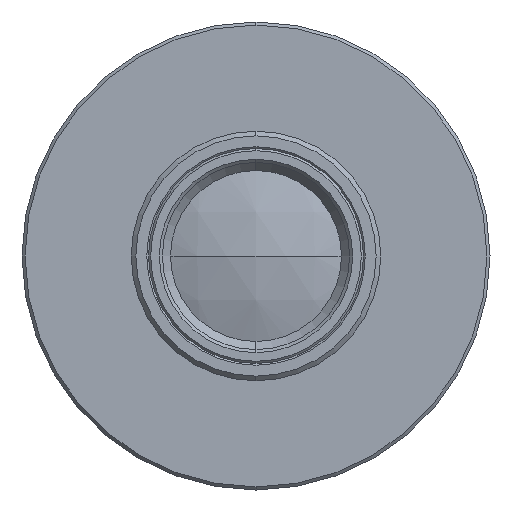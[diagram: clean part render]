
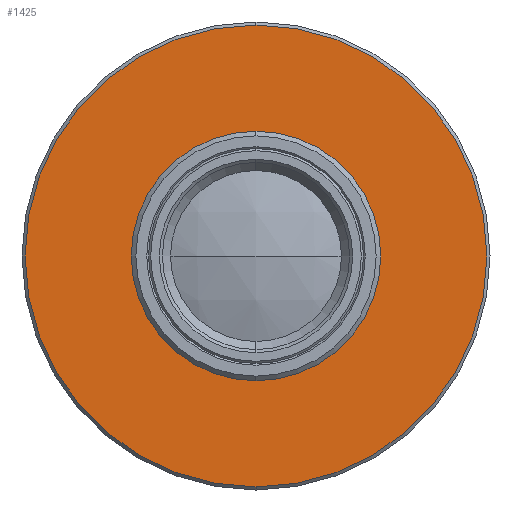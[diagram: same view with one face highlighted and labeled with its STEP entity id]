
A CAD part, left-side view. The second image highlights one B-rep face of the part: STEP entity #1425.
In plain terms, the highlighted planar face has unit normal (-1, 0, 0).
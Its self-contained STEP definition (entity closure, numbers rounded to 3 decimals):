
#21 = EDGE_CURVE ( 'NONE', #1756, #2561, #321, .T. ) ;
#57 = DIRECTION ( 'NONE',  ( 0., 0., -1. ) ) ;
#78 = AXIS2_PLACEMENT_3D ( 'NONE', #2437, #1251, #57 ) ;
#134 = CARTESIAN_POINT ( 'NONE',  ( 63.946, -0.012, 8. ) ) ;
#270 = AXIS2_PLACEMENT_3D ( 'NONE', #2118, #910, #2316 ) ;
#277 = PLANE ( 'NONE',  #1173 ) ;
#282 = EDGE_CURVE ( 'NONE', #2561, #1756, #1495, .T. ) ;
#321 = CIRCLE ( 'NONE', #2207, 8. ) ;
#323 = ORIENTED_EDGE ( 'NONE', *, *, #820, .F. ) ;
#338 = ORIENTED_EDGE ( 'NONE', *, *, #282, .T. ) ;
#467 = DIRECTION ( 'NONE',  ( 0., 0., 1. ) ) ;
#607 = FACE_OUTER_BOUND ( 'NONE', #2346, .T. ) ;
#762 = VERTEX_POINT ( 'NONE', #1209 ) ;
#820 = EDGE_CURVE ( 'NONE', #762, #2380, #2435, .T. ) ;
#910 = DIRECTION ( 'NONE',  ( 1., 0., 0. ) ) ;
#1022 = DIRECTION ( 'NONE',  ( 1., 0., 0. ) ) ;
#1058 = DIRECTION ( 'NONE',  ( 1., 0., 0. ) ) ;
#1060 = ORIENTED_EDGE ( 'NONE', *, *, #2213, .F. ) ;
#1089 = ORIENTED_EDGE ( 'NONE', *, *, #21, .T. ) ;
#1173 = AXIS2_PLACEMENT_3D ( 'NONE', #1270, #1253, #467 ) ;
#1182 = AXIS2_PLACEMENT_3D ( 'NONE', #2260, #1058, #2446 ) ;
#1209 = CARTESIAN_POINT ( 'NONE',  ( 63.946, -0.012, 14.8 ) ) ;
#1251 = DIRECTION ( 'NONE',  ( 1., 0., 0. ) ) ;
#1253 = DIRECTION ( 'NONE',  ( -1., 0., 0. ) ) ;
#1270 = CARTESIAN_POINT ( 'NONE',  ( 63.946, 7.988, 0. ) ) ;
#1425 = ADVANCED_FACE ( 'NONE', ( #1674, #607 ), #277, .T. ) ;
#1493 = CARTESIAN_POINT ( 'NONE',  ( 63.946, -0.012, -8. ) ) ;
#1495 = CIRCLE ( 'NONE', #78, 8. ) ;
#1674 = FACE_BOUND ( 'NONE', #2226, .T. ) ;
#1756 = VERTEX_POINT ( 'NONE', #134 ) ;
#1869 = CIRCLE ( 'NONE', #1182, 14.8 ) ;
#1923 = CARTESIAN_POINT ( 'NONE',  ( 63.946, -0.012, -14.8 ) ) ;
#2046 = CARTESIAN_POINT ( 'NONE',  ( 63.946, -0.012, 0. ) ) ;
#2118 = CARTESIAN_POINT ( 'NONE',  ( 63.946, -0.012, 0. ) ) ;
#2207 = AXIS2_PLACEMENT_3D ( 'NONE', #2046, #1022, #2416 ) ;
#2213 = EDGE_CURVE ( 'NONE', #2380, #762, #1869, .T. ) ;
#2226 = EDGE_LOOP ( 'NONE', ( #338, #1089 ) ) ;
#2260 = CARTESIAN_POINT ( 'NONE',  ( 63.946, -0.012, 0. ) ) ;
#2316 = DIRECTION ( 'NONE',  ( 0., 0., -1. ) ) ;
#2346 = EDGE_LOOP ( 'NONE', ( #1060, #323 ) ) ;
#2380 = VERTEX_POINT ( 'NONE', #1923 ) ;
#2416 = DIRECTION ( 'NONE',  ( 0., 0., -1. ) ) ;
#2435 = CIRCLE ( 'NONE', #270, 14.8 ) ;
#2437 = CARTESIAN_POINT ( 'NONE',  ( 63.946, -0.012, 0. ) ) ;
#2446 = DIRECTION ( 'NONE',  ( 0., 0., -1. ) ) ;
#2561 = VERTEX_POINT ( 'NONE', #1493 ) ;
